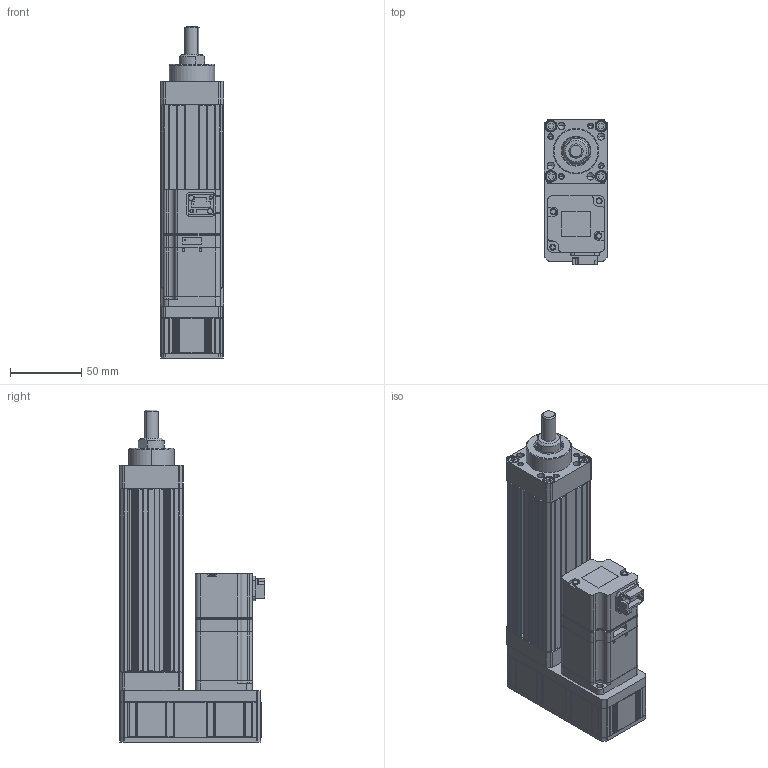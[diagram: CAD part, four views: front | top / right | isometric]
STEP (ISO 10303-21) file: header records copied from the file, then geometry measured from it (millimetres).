
FILE_DESCRIPTION (( 'STEP AP203' ), '1' );
FILE_NAME ('ANS045-P050-05(10)-W10-M.STEP', '2019-02-14T02:55:28', ( 'user' ), ( '' ), 'SwSTEP 2.0', 'SolidWorks 2013', '' );
FILE_SCHEMA (( 'CONFIG_CONTROL_DESIGN' ));
Length unit declared in the file: millimetre
Products named in the file (4): ANS045 P050 VER2; ANS045 ROD ST050 M; SGMJV_01A_A21; ANS045-P050-05(10)-W10-M
Assembly tree (3 placements, depth 2):
  ANS045-P050-05(10)-W10-M
    ANS045 P050 VER2
    ANS045 ROD ST050 M
    SGMJV_01A_A21
Bounding box: 45 x 102.3 x 233.5 mm (x, y, z)
Volume: 415236.1 mm3; surface area: 125155 mm2
Topology: 3 solids, 11 shells, 1060 faces, 2747 edges, 1750 vertices
Faces by surface type: plane 607, cylinder 355, cone 96, bspline 2
Entity records: 32395 total; most frequent: CARTESIAN_POINT 6241, ORIENTED_EDGE 5462, DIRECTION 5267, EDGE_CURVE 2731, LINE 1891, VECTOR 1891, VERTEX_POINT 1750, AXIS2_PLACEMENT_3D 1688
